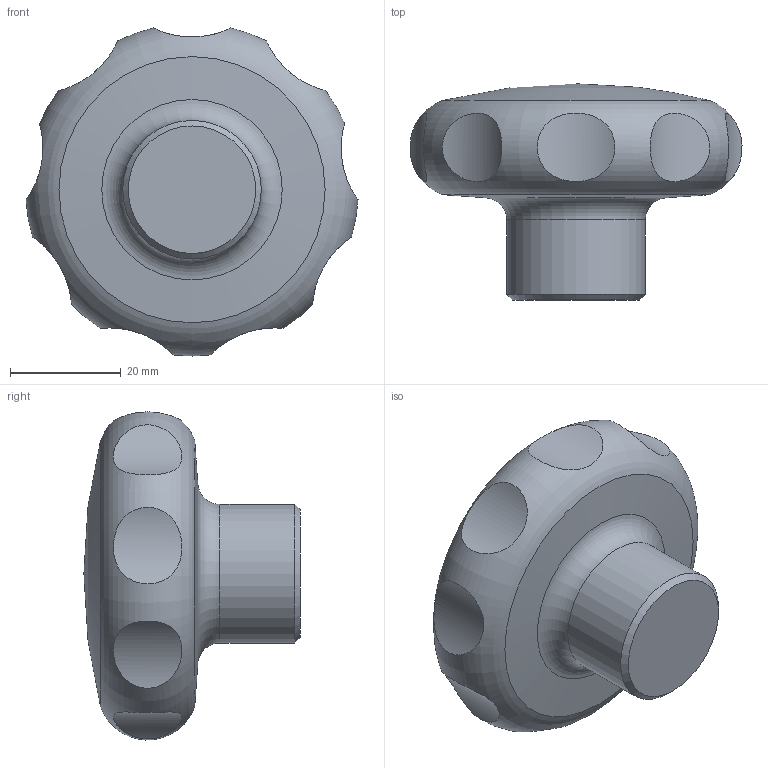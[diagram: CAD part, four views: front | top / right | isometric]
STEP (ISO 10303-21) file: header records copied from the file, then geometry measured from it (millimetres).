
FILE_DESCRIPTION( ( 'STEP AP203' ), '1' );
FILE_NAME( 'C:/Temp/Ganter_Step_05_03_2020/data/2_2/gn_5335/gn_5335_ni_a/Stainless steel-Star knob GN 5335-60-A.stp', '2020-03-05T12:10:27', ( 'License CC BY-ND 4.0' ), ( 'CADENAS' ), ' ', 'PARTsolutions', ' ' );
FILE_SCHEMA( ( 'CONFIG_CONTROL_DESIGN' ) );
Length unit declared in the file: millimetre
Products named in the file (1): _Stainless steel-Star knob GN 5335-60-A
Bounding box: 59.88 x 39 x 59.16 mm (x, y, z)
Volume: 54362.7 mm3; surface area: 8746.7 mm2
Topology: 1 solids, 1 shells, 16 faces, 23 edges, 17 vertices
Faces by surface type: cylinder 10, torus 2, sphere 2, plane 1, cone 1
Full cylindrical faces by diameter (mm): 25 x1
Entity records: 1110 total; most frequent: CARTESIAN_POINT 820, DIRECTION 46, EDGE_LOOP 30, ORIENTED_EDGE 30, AXIS2_PLACEMENT_3D 23, FACE_OUTER_BOUND 20, VERTEX_POINT 17, ADVANCED_FACE 16
